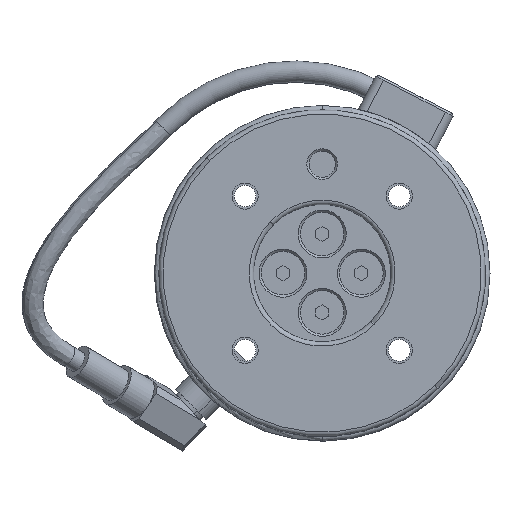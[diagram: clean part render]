
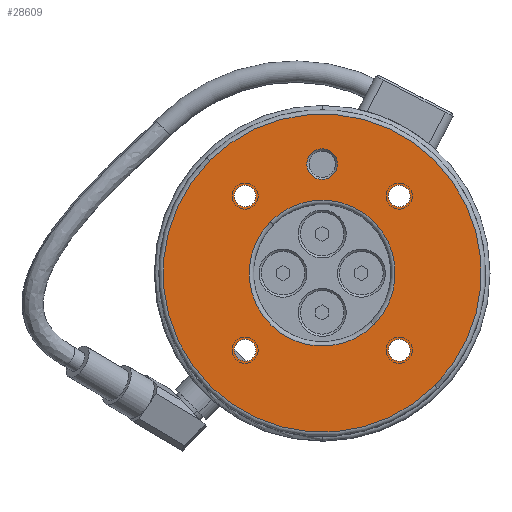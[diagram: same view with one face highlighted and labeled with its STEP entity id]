
A CAD part, top view. The second image highlights one B-rep face of the part: STEP entity #28609.
In plain terms, the highlighted planar face has unit normal (0, 0, 1) as drawn and (0, -1, 0) by its records, which use the part's own axes.
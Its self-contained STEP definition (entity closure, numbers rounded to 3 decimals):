
#27552=CARTESIAN_POINT('',(0.,0.,0.));
#27553=DIRECTION('',(0.,-1.,0.));
#27554=DIRECTION('',(1.,0.,0.));
#27555=AXIS2_PLACEMENT_3D('',#27552,#27553,#27554);
#27572=CARTESIAN_POINT('',(0.,0.,0.));
#27573=DIRECTION('',(0.,-1.,0.));
#27574=DIRECTION('',(-1.,0.,0.));
#27575=AXIS2_PLACEMENT_3D('',#27572,#27573,#27574);
#27744=CARTESIAN_POINT('',(0.,0.,0.));
#27745=DIRECTION('',(0.,1.,0.));
#27746=DIRECTION('',(-1.,0.,0.));
#27747=AXIS2_PLACEMENT_3D('',#27744,#27745,#27746);
#27749=CARTESIAN_POINT('',(0.,0.,0.));
#27750=DIRECTION('',(0.,1.,0.));
#27751=DIRECTION('',(1.,0.,0.));
#27752=AXIS2_PLACEMENT_3D('',#27749,#27750,#27751);
#27754=CARTESIAN_POINT('',(25.,0.,0.));
#27755=DIRECTION('',(0.,-1.,0.));
#27756=DIRECTION('',(0.,0.,-1.));
#27757=AXIS2_PLACEMENT_3D('',#27754,#27755,#27756);
#27759=CARTESIAN_POINT('',(25.,0.,0.));
#27760=DIRECTION('',(0.,-1.,0.));
#27761=DIRECTION('',(0.,0.,1.));
#27762=AXIS2_PLACEMENT_3D('',#27759,#27760,#27761);
#27764=CARTESIAN_POINT('',(0.,0.,25.));
#27765=DIRECTION('',(0.,-1.,0.));
#27766=DIRECTION('',(1.,0.,0.));
#27767=AXIS2_PLACEMENT_3D('',#27764,#27765,#27766);
#27769=CARTESIAN_POINT('',(0.,0.,25.));
#27770=DIRECTION('',(0.,-1.,0.));
#27771=DIRECTION('',(-1.,0.,0.));
#27772=AXIS2_PLACEMENT_3D('',#27769,#27770,#27771);
#27774=CARTESIAN_POINT('',(-25.,0.,0.));
#27775=DIRECTION('',(0.,-1.,0.));
#27776=DIRECTION('',(0.,0.,1.));
#27777=AXIS2_PLACEMENT_3D('',#27774,#27775,#27776);
#27779=CARTESIAN_POINT('',(-25.,0.,0.));
#27780=DIRECTION('',(0.,-1.,0.));
#27781=DIRECTION('',(0.,0.,-1.));
#27782=AXIS2_PLACEMENT_3D('',#27779,#27780,#27781);
#27784=CARTESIAN_POINT('',(0.,0.,0.));
#27785=DIRECTION('',(0.,-1.,0.));
#27786=DIRECTION('',(1.,0.,0.015));
#27787=AXIS2_PLACEMENT_3D('',#27784,#27785,#27786);
#27789=CARTESIAN_POINT('',(0.,0.,0.));
#27790=DIRECTION('',(0.,-1.,0.));
#27791=DIRECTION('',(-1.,0.,-0.015));
#27792=AXIS2_PLACEMENT_3D('',#27789,#27790,#27791);
#27794=CARTESIAN_POINT('',(0.,0.,-25.));
#27795=DIRECTION('',(0.,-1.,0.));
#27796=DIRECTION('',(-1.,0.,0.));
#27797=AXIS2_PLACEMENT_3D('',#27794,#27795,#27796);
#27799=CARTESIAN_POINT('',(0.,0.,-25.));
#27800=DIRECTION('',(0.,-1.,0.));
#27801=DIRECTION('',(1.,0.,0.));
#27802=AXIS2_PLACEMENT_3D('',#27799,#27800,#27801);
#27804=CARTESIAN_POINT('',(-17.678,0.,
17.678));
#27805=DIRECTION('',(0.,-1.,0.));
#27806=DIRECTION('',(-1.,0.,0.));
#27807=AXIS2_PLACEMENT_3D('',#27804,#27805,#27806);
#27809=CARTESIAN_POINT('',(-17.678,0.,
17.678));
#27810=DIRECTION('',(0.,-1.,0.));
#27811=DIRECTION('',(0.,0.,-1.));
#27812=AXIS2_PLACEMENT_3D('',#27809,#27810,#27811);
#27814=CARTESIAN_POINT('',(-17.678,0.,
17.678));
#27815=DIRECTION('',(0.,-1.,0.));
#27816=DIRECTION('',(1.,0.,0.));
#27817=AXIS2_PLACEMENT_3D('',#27814,#27815,#27816);
#27819=CARTESIAN_POINT('',(-17.678,0.,
17.678));
#27820=DIRECTION('',(0.,-1.,0.));
#27821=DIRECTION('',(0.,0.,1.));
#27822=AXIS2_PLACEMENT_3D('',#27819,#27820,#27821);
#27848=CARTESIAN_POINT('',(0.,0.,0.));
#27849=DIRECTION('',(0.,1.,0.));
#27850=DIRECTION('',(1.,0.,0.015));
#27851=AXIS2_PLACEMENT_3D('',#27848,#27849,#27850);
#27868=CARTESIAN_POINT('',(0.,0.,0.));
#27869=DIRECTION('',(0.,1.,0.));
#27870=DIRECTION('',(-1.,0.,-0.015));
#27871=AXIS2_PLACEMENT_3D('',#27868,#27869,#27870);
#28182=CARTESIAN_POINT('',(36.5,0.,0.));
#28183=VERTEX_POINT('',#28182);
#28184=CARTESIAN_POINT('',(-36.5,0.,0.));
#28185=CARTESIAN_POINT('',(36.5,0.,0.154));
#28186=VERTEX_POINT('',#28184);
#28187=VERTEX_POINT('',#28185);
#28190=CARTESIAN_POINT('',(-36.5,0.,-0.154));
#28191=VERTEX_POINT('',#28190);
#28258=CARTESIAN_POINT('',(2.5,0.,-25.));
#28259=VERTEX_POINT('',#28258);
#28260=CARTESIAN_POINT('',(-2.5,0.,-25.));
#28261=VERTEX_POINT('',#28260);
#28262=CARTESIAN_POINT('',(25.,0.,-2.5));
#28263=CARTESIAN_POINT('',(25.,0.,2.5));
#28264=VERTEX_POINT('',#28262);
#28265=VERTEX_POINT('',#28263);
#28266=CARTESIAN_POINT('',(2.5,0.,25.));
#28267=CARTESIAN_POINT('',(-2.5,0.,25.));
#28268=VERTEX_POINT('',#28266);
#28269=VERTEX_POINT('',#28267);
#28270=CARTESIAN_POINT('',(-25.,0.,2.5));
#28271=CARTESIAN_POINT('',(-25.,0.,-2.5));
#28272=VERTEX_POINT('',#28270);
#28273=VERTEX_POINT('',#28271);
#28274=CARTESIAN_POINT('',(16.748,0.,0.248));
#28275=CARTESIAN_POINT('',(-16.75,0.,0.007));
#28276=VERTEX_POINT('',#28274);
#28277=VERTEX_POINT('',#28275);
#28278=CARTESIAN_POINT('',(16.75,0.,-0.007));
#28279=VERTEX_POINT('',#28278);
#28280=CARTESIAN_POINT('',(-16.748,0.,-0.248));
#28281=VERTEX_POINT('',#28280);
#28282=CARTESIAN_POINT('',(-17.678,0.,
14.173));
#28283=CARTESIAN_POINT('',(-14.173,0.,
17.678));
#28284=VERTEX_POINT('',#28282);
#28285=VERTEX_POINT('',#28283);
#28286=CARTESIAN_POINT('',(-21.183,0.,
17.678));
#28287=VERTEX_POINT('',#28286);
#28288=CARTESIAN_POINT('',(-17.678,0.,
21.183));
#28289=VERTEX_POINT('',#28288);
#28556=CARTESIAN_POINT('',(0.,0.,0.));
#28557=DIRECTION('',(0.,-1.,0.));
#28558=DIRECTION('',(-1.,0.,0.));
#28559=AXIS2_PLACEMENT_3D('',#28556,#28557,#28558);
#28560=PLANE('',#28559);
#28561=ORIENTED_EDGE('',*,*,#28381,.T.);
#28562=ORIENTED_EDGE('',*,*,#28379,.F.);
#28563=ORIENTED_EDGE('',*,*,#28400,.T.);
#28564=ORIENTED_EDGE('',*,*,#28398,.F.);
#28565=EDGE_LOOP('',(#28561,#28562,#28563,#28564));
#28566=FACE_OUTER_BOUND('',#28565,.F.);
#28568=ORIENTED_EDGE('',*,*,#28567,.T.);
#28570=ORIENTED_EDGE('',*,*,#28569,.T.);
#28571=EDGE_LOOP('',(#28568,#28570));
#28572=FACE_BOUND('',#28571,.F.);
#28574=ORIENTED_EDGE('',*,*,#28573,.T.);
#28576=ORIENTED_EDGE('',*,*,#28575,.T.);
#28577=EDGE_LOOP('',(#28574,#28576));
#28578=FACE_BOUND('',#28577,.F.);
#28580=ORIENTED_EDGE('',*,*,#28579,.T.);
#28582=ORIENTED_EDGE('',*,*,#28581,.T.);
#28583=EDGE_LOOP('',(#28580,#28582));
#28584=FACE_BOUND('',#28583,.F.);
#28586=ORIENTED_EDGE('',*,*,#28585,.F.);
#28588=ORIENTED_EDGE('',*,*,#28587,.T.);
#28590=ORIENTED_EDGE('',*,*,#28589,.F.);
#28592=ORIENTED_EDGE('',*,*,#28591,.T.);
#28593=EDGE_LOOP('',(#28586,#28588,#28590,#28592));
#28594=FACE_BOUND('',#28593,.F.);
#28595=ORIENTED_EDGE('',*,*,#28536,.T.);
#28596=ORIENTED_EDGE('',*,*,#28550,.T.);
#28597=EDGE_LOOP('',(#28595,#28596));
#28598=FACE_BOUND('',#28597,.F.);
#28600=ORIENTED_EDGE('',*,*,#28599,.T.);
#28602=ORIENTED_EDGE('',*,*,#28601,.T.);
#28604=ORIENTED_EDGE('',*,*,#28603,.T.);
#28606=ORIENTED_EDGE('',*,*,#28605,.T.);
#28607=EDGE_LOOP('',(#28600,#28602,#28604,#28606));
#28608=FACE_BOUND('',#28607,.F.);
#28609=ADVANCED_FACE('',(#28566,#28572,#28578,#28584,#28594,#28598,#28608),
#28560,.T.);
#27556=CIRCLE('',#27555,36.5);
#27576=CIRCLE('',#27575,36.5);
#27748=CIRCLE('',#27747,36.5);
#27753=CIRCLE('',#27752,36.5);
#27758=CIRCLE('',#27757,2.5);
#27763=CIRCLE('',#27762,2.5);
#27768=CIRCLE('',#27767,2.5);
#27773=CIRCLE('',#27772,2.5);
#27778=CIRCLE('',#27777,2.5);
#27783=CIRCLE('',#27782,2.5);
#27788=CIRCLE('',#27787,16.75);
#27793=CIRCLE('',#27792,16.75);
#27798=CIRCLE('',#27797,2.5);
#27803=CIRCLE('',#27802,2.5);
#27808=CIRCLE('',#27807,3.505);
#27813=CIRCLE('',#27812,3.505);
#27818=CIRCLE('',#27817,3.505);
#27823=CIRCLE('',#27822,3.505);
#27852=CIRCLE('',#27851,16.75);
#27872=CIRCLE('',#27871,16.75);
#28379=EDGE_CURVE('',#28183,#28187,#27556,.T.);
#28381=EDGE_CURVE('',#28186,#28187,#27748,.T.);
#28398=EDGE_CURVE('',#28186,#28191,#27576,.T.);
#28400=EDGE_CURVE('',#28183,#28191,#27753,.T.);
#28536=EDGE_CURVE('',#28261,#28259,#27798,.T.);
#28550=EDGE_CURVE('',#28259,#28261,#27803,.T.);
#28567=EDGE_CURVE('',#28264,#28265,#27758,.T.);
#28569=EDGE_CURVE('',#28265,#28264,#27763,.T.);
#28573=EDGE_CURVE('',#28268,#28269,#27768,.T.);
#28575=EDGE_CURVE('',#28269,#28268,#27773,.T.);
#28579=EDGE_CURVE('',#28272,#28273,#27778,.T.);
#28581=EDGE_CURVE('',#28273,#28272,#27783,.T.);
#28585=EDGE_CURVE('',#28276,#28279,#27852,.T.);
#28587=EDGE_CURVE('',#28276,#28277,#27788,.T.);
#28589=EDGE_CURVE('',#28281,#28277,#27872,.T.);
#28591=EDGE_CURVE('',#28281,#28279,#27793,.T.);
#28599=EDGE_CURVE('',#28287,#28284,#27808,.T.);
#28601=EDGE_CURVE('',#28284,#28285,#27813,.T.);
#28603=EDGE_CURVE('',#28285,#28289,#27818,.T.);
#28605=EDGE_CURVE('',#28289,#28287,#27823,.T.);
